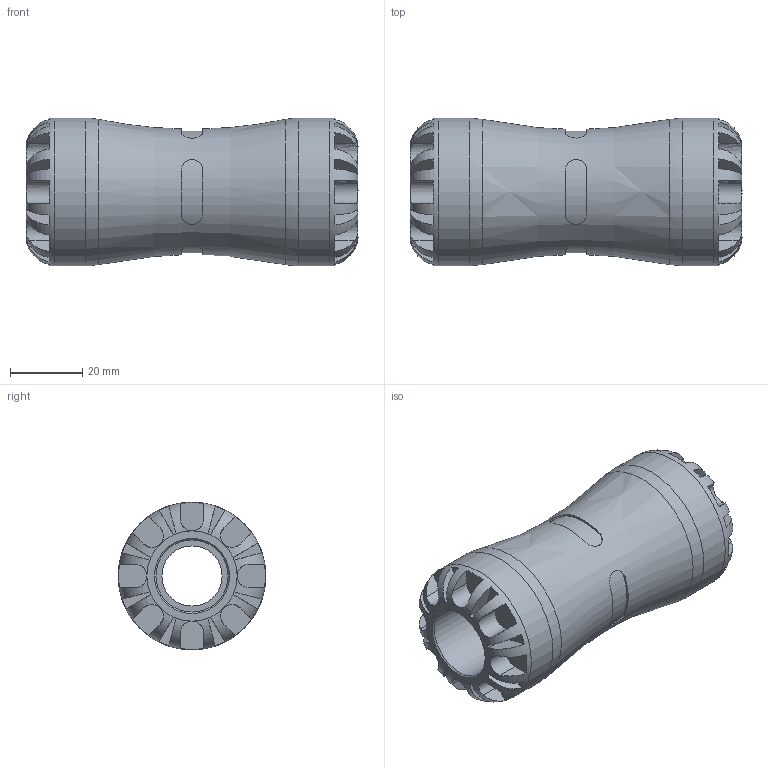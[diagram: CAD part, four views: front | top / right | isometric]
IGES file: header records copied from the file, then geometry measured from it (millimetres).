
Global section: file name: 100100020_190100020.ipt; native system: Autodesk Inventor 2015; preprocessor: unknown; author: KIM; date: 20170117.105918; units: millimetre
Bounding box: 92 x 41 x 41 mm (x, y, z)
Volume: 71165.7 mm3; surface area: 20633.4 mm2
Topology: 1 solids, 1 shells, 164 faces, 427 edges, 270 vertices
Faces by surface type: plane 108, revolution 34, cylinder 22
Full cylindrical faces by diameter (mm): 41 x2
